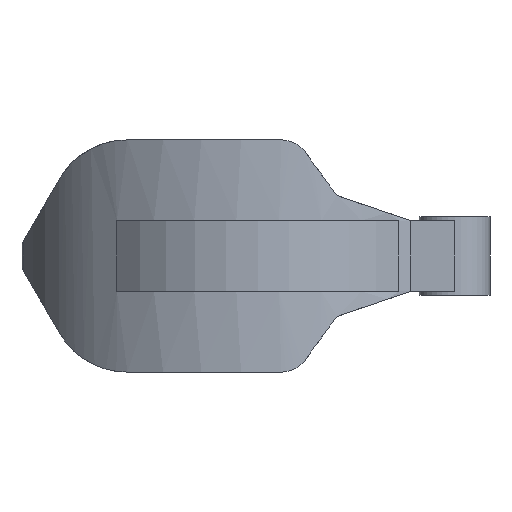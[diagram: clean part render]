
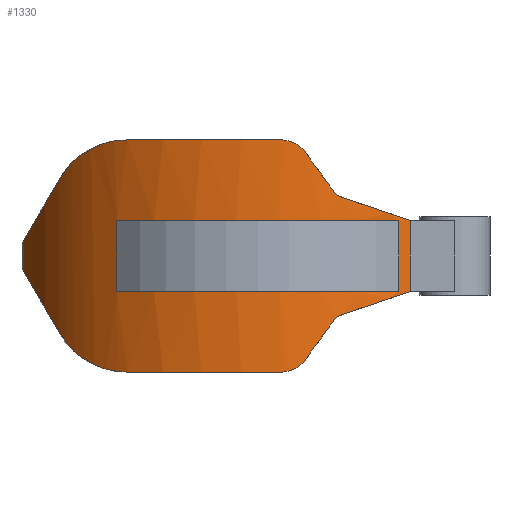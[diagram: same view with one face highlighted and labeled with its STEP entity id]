
A CAD part, left-side view. The second image highlights one B-rep face of the part: STEP entity #1330.
In plain terms, the highlighted cylindrical face has radius 25 mm (diameter 50 mm), a partial arc.
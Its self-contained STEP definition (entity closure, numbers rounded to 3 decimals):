
#59=CIRCLE('',#1427,25.);
#60=CIRCLE('',#1432,25.);
#61=CIRCLE('',#1434,25.);
#62=CIRCLE('',#1435,25.);
#141=B_SPLINE_CURVE_WITH_KNOTS('',3,(#2060,#2061,#2062,#2063,#2064,#2065,
#2066),.UNSPECIFIED.,.F.,.F.,(4,1,1,1,4),(0.,0.003,
0.005,0.008,0.011),
 .UNSPECIFIED.);
#142=B_SPLINE_CURVE_WITH_KNOTS('',3,(#2070,#2071,#2072,#2073),
 .UNSPECIFIED.,.F.,.F.,(4,4),(0.,0.003),.UNSPECIFIED.);
#143=B_SPLINE_CURVE_WITH_KNOTS('',3,(#2085,#2086,#2087,#2088),
 .UNSPECIFIED.,.F.,.F.,(4,4),(0.,0.003),.UNSPECIFIED.);
#144=B_SPLINE_CURVE_WITH_KNOTS('',3,(#2092,#2093,#2094,#2095,#2096),
 .UNSPECIFIED.,.F.,.F.,(4,1,4),(0.,0.005,0.01),
 .UNSPECIFIED.);
#149=ELLIPSE('',#1426,50.,25.);
#150=ELLIPSE('',#1428,42.301,25.);
#151=ELLIPSE('',#1429,26.404,25.);
#152=ELLIPSE('',#1430,26.404,25.);
#153=ELLIPSE('',#1431,42.301,25.);
#154=ELLIPSE('',#1433,50.,25.);
#163=ORIENTED_EDGE('',*,*,#555,.F.);
#164=ORIENTED_EDGE('',*,*,#556,.T.);
#165=ORIENTED_EDGE('',*,*,#557,.T.);
#166=ORIENTED_EDGE('',*,*,#558,.T.);
#167=ORIENTED_EDGE('',*,*,#559,.T.);
#168=ORIENTED_EDGE('',*,*,#560,.T.);
#169=ORIENTED_EDGE('',*,*,#561,.T.);
#170=ORIENTED_EDGE('',*,*,#562,.T.);
#171=ORIENTED_EDGE('',*,*,#563,.T.);
#172=ORIENTED_EDGE('',*,*,#564,.T.);
#173=ORIENTED_EDGE('',*,*,#565,.T.);
#174=ORIENTED_EDGE('',*,*,#566,.F.);
#175=ORIENTED_EDGE('',*,*,#567,.T.);
#176=ORIENTED_EDGE('',*,*,#568,.T.);
#177=ORIENTED_EDGE('',*,*,#569,.F.);
#178=ORIENTED_EDGE('',*,*,#570,.T.);
#179=ORIENTED_EDGE('',*,*,#571,.T.);
#180=ORIENTED_EDGE('',*,*,#572,.F.);
#555=EDGE_CURVE('',#751,#752,#887,.T.);
#556=EDGE_CURVE('',#751,#753,#149,.F.);
#557=EDGE_CURVE('',#753,#754,#141,.T.);
#558=EDGE_CURVE('',#754,#755,#59,.T.);
#559=EDGE_CURVE('',#755,#756,#142,.T.);
#560=EDGE_CURVE('',#756,#757,#150,.F.);
#561=EDGE_CURVE('',#757,#758,#151,.F.);
#562=EDGE_CURVE('',#758,#759,#888,.T.);
#563=EDGE_CURVE('',#759,#760,#152,.F.);
#564=EDGE_CURVE('',#760,#761,#153,.F.);
#565=EDGE_CURVE('',#761,#762,#143,.T.);
#566=EDGE_CURVE('',#763,#762,#60,.T.);
#567=EDGE_CURVE('',#763,#764,#144,.T.);
#568=EDGE_CURVE('',#764,#752,#154,.F.);
#569=EDGE_CURVE('',#765,#766,#889,.T.);
#570=EDGE_CURVE('',#765,#767,#61,.F.);
#571=EDGE_CURVE('',#767,#768,#890,.T.);
#572=EDGE_CURVE('',#766,#768,#62,.F.);
#751=VERTEX_POINT('',#2056);
#752=VERTEX_POINT('',#2057);
#753=VERTEX_POINT('',#2059);
#754=VERTEX_POINT('',#2067);
#755=VERTEX_POINT('',#2069);
#756=VERTEX_POINT('',#2074);
#757=VERTEX_POINT('',#2076);
#758=VERTEX_POINT('',#2078);
#759=VERTEX_POINT('',#2080);
#760=VERTEX_POINT('',#2082);
#761=VERTEX_POINT('',#2084);
#762=VERTEX_POINT('',#2089);
#763=VERTEX_POINT('',#2091);
#764=VERTEX_POINT('',#2097);
#765=VERTEX_POINT('',#2100);
#766=VERTEX_POINT('',#2101);
#767=VERTEX_POINT('',#2103);
#768=VERTEX_POINT('',#2105);
#887=LINE('',#2055,#979);
#888=LINE('',#2079,#980);
#889=LINE('',#2099,#981);
#890=LINE('',#2104,#982);
#979=VECTOR('',#1607,1000.);
#980=VECTOR('',#1616,1000.);
#981=VECTOR('',#1625,1000.);
#982=VECTOR('',#1628,1000.);
#1071=EDGE_LOOP('',(#163,#164,#165,#166,#167,#168,#169,#170,#171,#172,#173,
#174,#175,#176));
#1072=EDGE_LOOP('',(#177,#178,#179,#180));
#1179=FACE_BOUND('',#1071,.T.);
#1180=FACE_BOUND('',#1072,.T.);
#1287=CYLINDRICAL_SURFACE('',#1425,25.);
#1330=ADVANCED_FACE('',(#1179,#1180),#1287,.T.);
#1425=AXIS2_PLACEMENT_3D('',#2054,#1605,#1606);
#1426=AXIS2_PLACEMENT_3D('',#2058,#1608,#1609);
#1427=AXIS2_PLACEMENT_3D('',#2068,#1610,#1611);
#1428=AXIS2_PLACEMENT_3D('',#2075,#1612,#1613);
#1429=AXIS2_PLACEMENT_3D('',#2077,#1614,#1615);
#1430=AXIS2_PLACEMENT_3D('',#2081,#1617,#1618);
#1431=AXIS2_PLACEMENT_3D('',#2083,#1619,#1620);
#1432=AXIS2_PLACEMENT_3D('',#2090,#1621,#1622);
#1433=AXIS2_PLACEMENT_3D('',#2098,#1623,#1624);
#1434=AXIS2_PLACEMENT_3D('',#2102,#1626,#1627);
#1435=AXIS2_PLACEMENT_3D('',#2106,#1629,#1630);
#1605=DIRECTION('',(0.,0.,1.));
#1606=DIRECTION('',(1.,0.,0.));
#1607=DIRECTION('',(0.,0.,1.));
#1608=DIRECTION('',(0.,0.866,-0.5));
#1609=DIRECTION('',(0.,0.5,0.866));
#1610=DIRECTION('',(0.,0.,1.));
#1611=DIRECTION('',(1.,0.,0.));
#1612=DIRECTION('',(0.,-0.807,-0.591));
#1613=DIRECTION('',(0.,-0.591,0.807));
#1614=DIRECTION('',(0.,-0.322,-0.947));
#1615=DIRECTION('',(0.,-0.947,0.322));
#1616=DIRECTION('',(0.,0.,1.));
#1617=DIRECTION('',(0.,-0.322,0.947));
#1618=DIRECTION('',(0.,0.947,0.322));
#1619=DIRECTION('',(0.,-0.807,0.591));
#1620=DIRECTION('',(0.,0.591,0.807));
#1621=DIRECTION('',(0.,0.,1.));
#1622=DIRECTION('',(1.,0.,0.));
#1623=DIRECTION('',(0.,0.866,0.5));
#1624=DIRECTION('',(0.,-0.5,0.866));
#1625=DIRECTION('',(0.,0.,1.));
#1626=DIRECTION('',(0.,0.,1.));
#1627=DIRECTION('',(1.,0.,0.));
#1628=DIRECTION('',(0.,0.,1.));
#1629=DIRECTION('',(0.,0.,1.));
#1630=DIRECTION('',(1.,0.,0.));
#2054=CARTESIAN_POINT('',(8.,20.,-7.8));
#2055=CARTESIAN_POINT('',(0.334,43.796,-7.8));
#2056=CARTESIAN_POINT('',(0.334,43.796,2.469));
#2057=CARTESIAN_POINT('',(0.334,43.796,5.531));
#2058=CARTESIAN_POINT('',(8.,20.,-38.746));
#2059=CARTESIAN_POINT('',(-6.762,40.176,-3.8));
#2060=CARTESIAN_POINT('',(-6.762,40.176,-3.8));
#2061=CARTESIAN_POINT('',(-7.264,39.809,-4.436));
#2062=CARTESIAN_POINT('',(-8.345,38.96,-5.522));
#2063=CARTESIAN_POINT('',(-10.062,37.342,-6.773));
#2064=CARTESIAN_POINT('',(-11.71,35.451,-7.586));
#2065=CARTESIAN_POINT('',(-12.73,34.002,-7.8));
#2066=CARTESIAN_POINT('',(-13.201,33.248,-7.8));
#2067=CARTESIAN_POINT('',(-13.201,33.248,-7.8));
#2068=CARTESIAN_POINT('',(8.,20.,-7.8));
#2069=CARTESIAN_POINT('',(-16.886,17.614,-7.8));
#2070=CARTESIAN_POINT('',(-16.886,17.614,-7.8));
#2071=CARTESIAN_POINT('',(-16.795,16.665,-7.8));
#2072=CARTESIAN_POINT('',(-16.643,15.754,-7.337));
#2073=CARTESIAN_POINT('',(-16.534,15.194,-6.573));
#2074=CARTESIAN_POINT('',(-16.534,15.194,-6.573));
#2075=CARTESIAN_POINT('',(8.,20.,-13.133));
#2076=CARTESIAN_POINT('',(-15.666,11.944,-2.136));
#2077=CARTESIAN_POINT('',(8.,20.,-4.875));
#2078=CARTESIAN_POINT('',(-11.6,4.481,0.4));
#2079=CARTESIAN_POINT('',(-11.6,4.481,-7.8));
#2080=CARTESIAN_POINT('',(-11.6,4.481,7.6));
#2081=CARTESIAN_POINT('',(8.,20.,12.875));
#2082=CARTESIAN_POINT('',(-15.666,11.944,10.136));
#2083=CARTESIAN_POINT('',(8.,20.,21.133));
#2084=CARTESIAN_POINT('',(-16.534,15.194,14.573));
#2085=CARTESIAN_POINT('',(-16.534,15.194,14.573));
#2086=CARTESIAN_POINT('',(-16.643,15.754,15.337));
#2087=CARTESIAN_POINT('',(-16.795,16.665,15.8));
#2088=CARTESIAN_POINT('',(-16.886,17.614,15.8));
#2089=CARTESIAN_POINT('',(-16.886,17.614,15.8));
#2090=CARTESIAN_POINT('',(8.,20.,15.8));
#2091=CARTESIAN_POINT('',(-13.201,33.248,15.8));
#2092=CARTESIAN_POINT('',(-13.201,33.248,15.8));
#2093=CARTESIAN_POINT('',(-12.258,34.757,15.8));
#2094=CARTESIAN_POINT('',(-10.103,37.48,14.973));
#2095=CARTESIAN_POINT('',(-7.765,39.443,13.07));
#2096=CARTESIAN_POINT('',(-6.762,40.176,11.8));
#2097=CARTESIAN_POINT('',(-6.762,40.176,11.8));
#2098=CARTESIAN_POINT('',(8.,20.,46.746));
#2099=CARTESIAN_POINT('',(-12.5,5.691,0.4));
#2100=CARTESIAN_POINT('',(-12.5,5.691,0.4));
#2101=CARTESIAN_POINT('',(-12.5,5.691,7.6));
#2102=CARTESIAN_POINT('',(8.,20.,0.4));
#2103=CARTESIAN_POINT('',(-12.5,34.309,0.4));
#2104=CARTESIAN_POINT('',(-12.5,34.309,0.4));
#2105=CARTESIAN_POINT('',(-12.5,34.309,7.6));
#2106=CARTESIAN_POINT('',(8.,20.,7.6));
